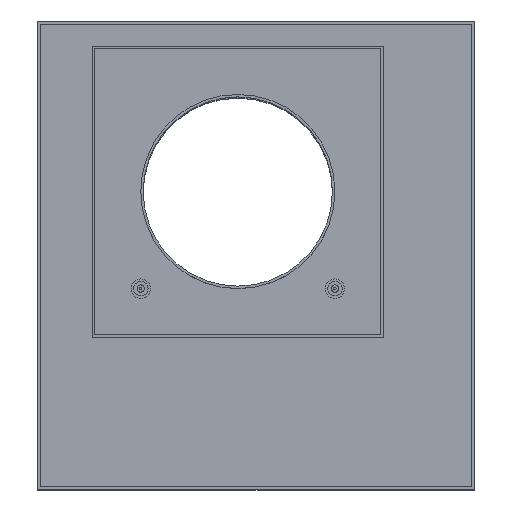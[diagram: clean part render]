
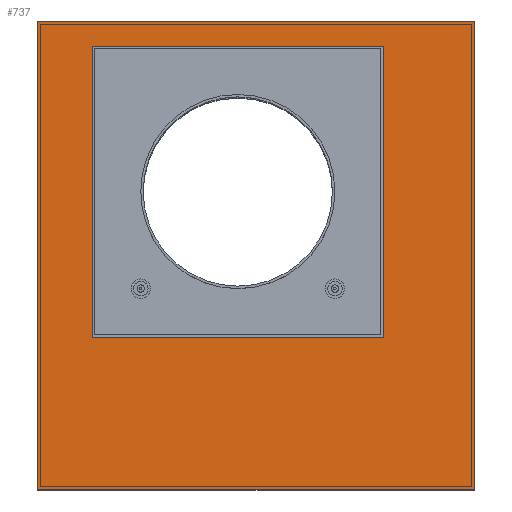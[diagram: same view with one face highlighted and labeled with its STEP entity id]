
A CAD part, top view. The second image highlights one B-rep face of the part: STEP entity #737.
In plain terms, the highlighted planar face has unit normal (0, 0, 1).
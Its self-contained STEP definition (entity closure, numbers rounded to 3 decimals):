
#48=FACE_BOUND('',#186,.T.);
#81=PLANE('',#829);
#127=FACE_OUTER_BOUND('',#185,.T.);
#185=EDGE_LOOP('',(#637,#638,#639,#640));
#186=EDGE_LOOP('',(#641,#642,#643,#644));
#242=LINE('',#1201,#304);
#245=LINE('',#1207,#307);
#248=LINE('',#1213,#310);
#251=LINE('',#1217,#313);
#252=LINE('',#1221,#314);
#253=LINE('',#1223,#315);
#254=LINE('',#1225,#316);
#255=LINE('',#1226,#317);
#304=VECTOR('',#1000,10.);
#307=VECTOR('',#1005,10.);
#310=VECTOR('',#1010,10.);
#313=VECTOR('',#1015,10.);
#314=VECTOR('',#1018,10.);
#315=VECTOR('',#1019,10.);
#316=VECTOR('',#1020,10.);
#317=VECTOR('',#1021,10.);
#398=VERTEX_POINT('',#1198);
#399=VERTEX_POINT('',#1200);
#401=VERTEX_POINT('',#1206);
#403=VERTEX_POINT('',#1212);
#404=VERTEX_POINT('',#1219);
#405=VERTEX_POINT('',#1220);
#406=VERTEX_POINT('',#1222);
#407=VERTEX_POINT('',#1224);
#478=EDGE_CURVE('',#399,#398,#242,.T.);
#481=EDGE_CURVE('',#401,#399,#245,.T.);
#484=EDGE_CURVE('',#403,#401,#248,.T.);
#487=EDGE_CURVE('',#398,#403,#251,.T.);
#488=EDGE_CURVE('',#404,#405,#252,.T.);
#489=EDGE_CURVE('',#406,#404,#253,.T.);
#490=EDGE_CURVE('',#407,#406,#254,.T.);
#491=EDGE_CURVE('',#405,#407,#255,.T.);
#637=ORIENTED_EDGE('',*,*,#487,.T.);
#638=ORIENTED_EDGE('',*,*,#484,.T.);
#639=ORIENTED_EDGE('',*,*,#481,.T.);
#640=ORIENTED_EDGE('',*,*,#478,.T.);
#641=ORIENTED_EDGE('',*,*,#488,.F.);
#642=ORIENTED_EDGE('',*,*,#489,.F.);
#643=ORIENTED_EDGE('',*,*,#490,.F.);
#644=ORIENTED_EDGE('',*,*,#491,.F.);
#737=ADVANCED_FACE('',(#127,#48),#81,.T.);
#829=AXIS2_PLACEMENT_3D('',#1218,#1016,#1017);
#1000=DIRECTION('',(1.,0.,0.));
#1005=DIRECTION('',(0.,-1.,0.));
#1010=DIRECTION('',(-1.,0.,0.));
#1015=DIRECTION('',(0.,1.,0.));
#1016=DIRECTION('center_axis',(0.,0.,1.));
#1017=DIRECTION('ref_axis',(1.,0.,0.));
#1018=DIRECTION('',(0.,1.,0.));
#1019=DIRECTION('',(1.,0.,0.));
#1020=DIRECTION('',(0.,-1.,0.));
#1021=DIRECTION('',(-1.,0.,0.));
#1198=CARTESIAN_POINT('',(195.,-245.,155.));
#1200=CARTESIAN_POINT('',(-165.,-245.,155.));
#1201=CARTESIAN_POINT('',(195.,-245.,155.));
#1206=CARTESIAN_POINT('',(-165.,140.,155.));
#1207=CARTESIAN_POINT('',(-165.,-245.,155.));
#1212=CARTESIAN_POINT('',(195.,140.,155.));
#1213=CARTESIAN_POINT('',(-165.,140.,155.));
#1217=CARTESIAN_POINT('',(195.,140.,155.));
#1218=CARTESIAN_POINT('Origin',(15.,-52.5,155.));
#1219=CARTESIAN_POINT('',(120.,-120.,155.));
#1220=CARTESIAN_POINT('',(120.,120.,155.));
#1221=CARTESIAN_POINT('',(120.,-86.25,155.));
#1222=CARTESIAN_POINT('',(-120.,-120.,155.));
#1223=CARTESIAN_POINT('',(-52.5,-120.,155.));
#1224=CARTESIAN_POINT('',(-120.,120.,155.));
#1225=CARTESIAN_POINT('',(-120.,33.75,155.));
#1226=CARTESIAN_POINT('',(67.5,120.,155.));
